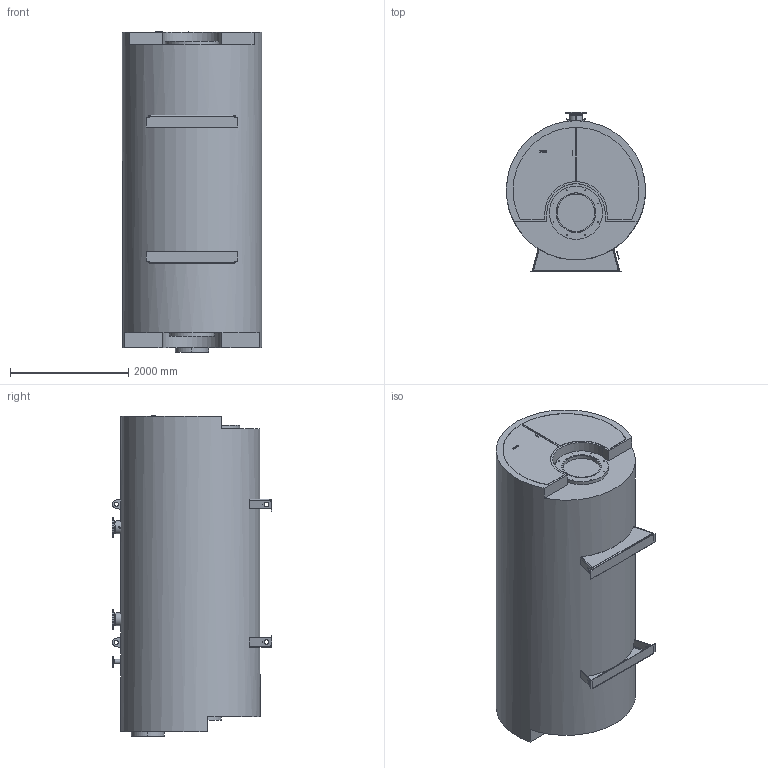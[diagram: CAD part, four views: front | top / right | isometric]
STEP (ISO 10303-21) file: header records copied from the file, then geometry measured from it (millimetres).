
FILE_DESCRIPTION(('TFLEX Exchange Step'),'2;1');
FILE_NAME('M62D025_7550660_H001.stp', '2024-08-09T13:13:55+03:00',('kort'),('Unknown organisation'),'TFLEX Exchange 2024.2','T-FLEX CAD','Unknown authorisation');
FILE_SCHEMA( ('AP242_MANAGED_MODEL_BASED_3D_ENGINEERING_MIM_LF {1 0 10303 442 1 1 4 }') );
Length unit declared in the file: millimetre
Products named in the file (1): 7550660_Grundkessel M62D025_H001
Bounding box: 2352.67 x 2700 x 5414.2 mm (x, y, z)
Volume: 22464832059.9 mm3; surface area: 52822725 mm2
Topology: 31 solids, 31 shells, 541 faces, 1389 edges, 945 vertices
Faces by surface type: plane 295, cylinder 142, bspline 86, torus 12, cone 6
Full cylindrical faces by diameter (mm): 2.2 x4, 3.2 x4, 3.3 x4, 4 x4, 6.5 x4, 13 x4, 14 x8, 18 x4, 18.63 x2, 22 x24, 27 x2, 67.1 x1, 70 x2, 70.3 x1, 76.1 x1, 80 x4, 122 x1, 185 x1, 203.1 x2, 206.5 x2, 219.1 x2, 340 x2, 760 x1, 900 x1, 2354 x1
Entity records: 24147 total; most frequent: CARTESIAN_POINT 10589, ORIENTED_EDGE 2778, DIRECTION 2476, EDGE_CURVE 1389, VERTEX_POINT 945, AXIS2_PLACEMENT_3D 846, VECTOR 784, LINE 784
